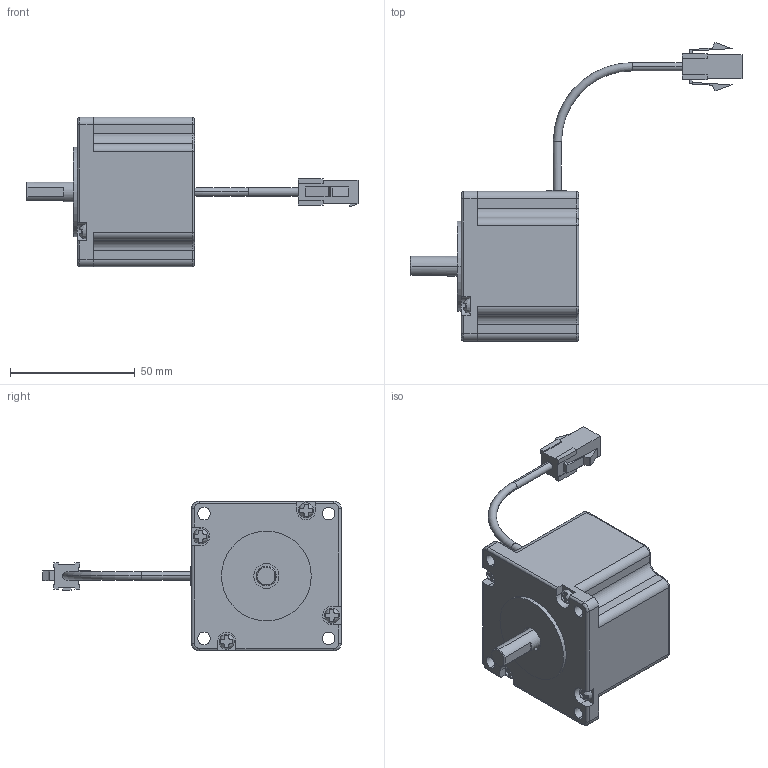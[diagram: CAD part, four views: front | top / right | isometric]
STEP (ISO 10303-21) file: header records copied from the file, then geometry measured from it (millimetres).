
FILE_DESCRIPTION (( 'STEP AP203' ), '1' );
FILE_NAME ('P21-MO-060-01-R00.STEP', '2015-06-30T08:32:40', ( '' ), ( '' ), 'SwSTEP 2.0', 'SolidWorks 2013', '' );
FILE_SCHEMA (( 'CONFIG_CONTROL_DESIGN' ));
Length unit declared in the file: millimetre
Products named in the file (3): M21-MO-060-01-R00; Power_Cable_ル遽; P21-MO-060-01-R00
Assembly tree (2 placements, depth 2):
  P21-MO-060-01-R00
    M21-MO-060-01-R00
    Power_Cable_ル遽
Bounding box: 133.07 x 119.61 x 60 mm (x, y, z)
Volume: 154311.9 mm3; surface area: 22625.5 mm2
Topology: 2 solids, 2 shells, 301 faces, 779 edges, 503 vertices
Faces by surface type: plane 182, cylinder 94, bspline 20, cone 3, torus 2
Entity records: 10215 total; most frequent: CARTESIAN_POINT 2577, ORIENTED_EDGE 1542, DIRECTION 1500, EDGE_CURVE 771, VERTEX_POINT 503, AXIS2_PLACEMENT_3D 503, LINE 494, VECTOR 494
